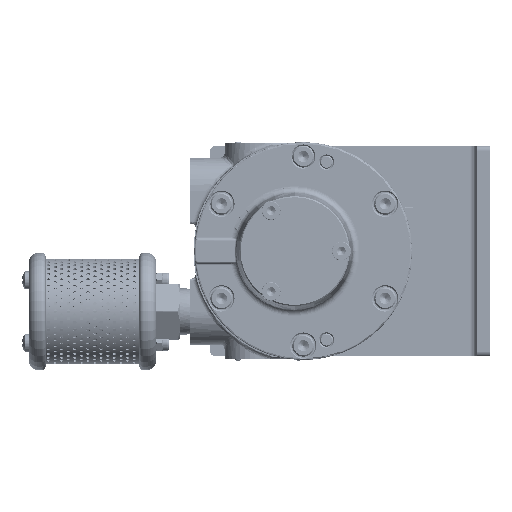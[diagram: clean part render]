
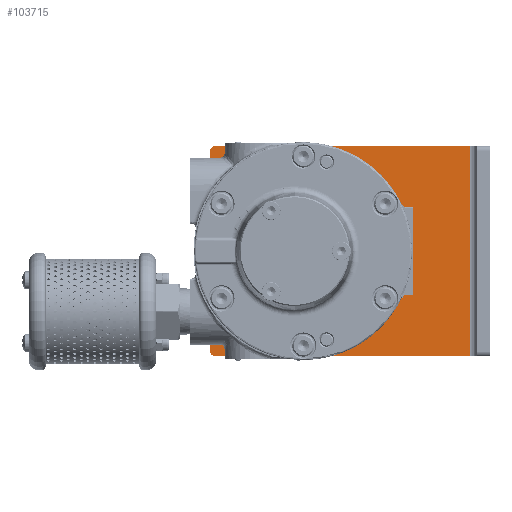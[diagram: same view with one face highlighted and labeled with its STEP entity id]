
A CAD part, left-side view. The second image highlights one B-rep face of the part: STEP entity #103715.
In plain terms, the highlighted planar face has unit normal (-1, 0, 0).
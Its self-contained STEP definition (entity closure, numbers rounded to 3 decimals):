
#1281 = AXIS2_PLACEMENT_3D ( 'NONE', #7901, #239108, #30136 ) ;
#3856 = DIRECTION ( 'NONE',  ( 0., 0., -1. ) ) ;
#3944 = CARTESIAN_POINT ( 'NONE',  ( 38.28, 42.27, 45.75 ) ) ;
#5260 = ORIENTED_EDGE ( 'NONE', *, *, #266473, .T. ) ;
#7466 = VECTOR ( 'NONE', #153856, 1000. ) ;
#7739 = EDGE_LOOP ( 'NONE', ( #287343, #186416 ) ) ;
#7901 = CARTESIAN_POINT ( 'NONE',  ( 38.28, 8.218, 30.668 ) ) ;
#8113 = DIRECTION ( 'NONE',  ( 0., 0., -1. ) ) ;
#9466 = CARTESIAN_POINT ( 'NONE',  ( 38.28, 40.27, -45.75 ) ) ;
#10134 = AXIS2_PLACEMENT_3D ( 'NONE', #223827, #244090, #247059 ) ;
#10282 = EDGE_CURVE ( 'NONE', #14335, #158432, #11310, .T. ) ;
#11310 = CIRCLE ( 'NONE', #258296, 3.55 ) ;
#14335 = VERTEX_POINT ( 'NONE', #232150 ) ;
#16700 = ORIENTED_EDGE ( 'NONE', *, *, #10282, .T. ) ;
#19682 = VERTEX_POINT ( 'NONE', #100225 ) ;
#20776 = VECTOR ( 'NONE', #242179, 1000. ) ;
#21464 = DIRECTION ( 'NONE',  ( 1., 0., 0. ) ) ;
#22335 = CARTESIAN_POINT ( 'NONE',  ( 38.28, -75.93, -47.75 ) ) ;
#26912 = AXIS2_PLACEMENT_3D ( 'NONE', #149859, #150875, #225500 ) ;
#27684 = CARTESIAN_POINT ( 'NONE',  ( 38.28, 8.218, -34.218 ) ) ;
#30136 = DIRECTION ( 'NONE',  ( 0., 0., -1. ) ) ;
#38398 = EDGE_CURVE ( 'NONE', #66563, #239567, #219705, .T. ) ;
#39276 = FACE_OUTER_BOUND ( 'NONE', #197765, .T. ) ;
#41711 = CIRCLE ( 'NONE', #1281, 3.55 ) ;
#43554 = EDGE_CURVE ( 'NONE', #51917, #224086, #182728, .T. ) ;
#46492 = FACE_BOUND ( 'NONE', #262598, .T. ) ;
#47226 = CIRCLE ( 'NONE', #10134, 3.55 ) ;
#51917 = VERTEX_POINT ( 'NONE', #59746 ) ;
#51996 = AXIS2_PLACEMENT_3D ( 'NONE', #190763, #170598, #53420 ) ;
#53420 = DIRECTION ( 'NONE',  ( 0., 0., -1. ) ) ;
#53535 = DIRECTION ( 'NONE',  ( 1., 0., 0. ) ) ;
#57051 = CARTESIAN_POINT ( 'NONE',  ( 38.28, -31.75, 0. ) ) ;
#59746 = CARTESIAN_POINT ( 'NONE',  ( 38.28, 40.27, 47.75 ) ) ;
#59921 = CARTESIAN_POINT ( 'NONE',  ( 38.28, 40.27, 45.75 ) ) ;
#66364 = ORIENTED_EDGE ( 'NONE', *, *, #155151, .T. ) ;
#66563 = VERTEX_POINT ( 'NONE', #74804 ) ;
#70888 = DIRECTION ( 'NONE',  ( 0., 1., 0. ) ) ;
#73221 = CARTESIAN_POINT ( 'NONE',  ( 38.28, 42.27, -45.75 ) ) ;
#74659 = EDGE_CURVE ( 'NONE', #208056, #242850, #122368, .T. ) ;
#74804 = CARTESIAN_POINT ( 'NONE',  ( 38.28, 3.97, -23.25 ) ) ;
#75660 = ORIENTED_EDGE ( 'NONE', *, *, #74659, .T. ) ;
#76721 = EDGE_CURVE ( 'NONE', #274169, #224086, #273894, .T. ) ;
#78716 = AXIS2_PLACEMENT_3D ( 'NONE', #277607, #117845, #3856 ) ;
#80151 = DIRECTION ( 'NONE',  ( 1., 0., 0. ) ) ;
#82110 = LINE ( 'NONE', #241203, #20776 ) ;
#92720 = CIRCLE ( 'NONE', #268662, 2. ) ;
#93116 = CARTESIAN_POINT ( 'NONE',  ( 38.28, 3.97, 0. ) ) ;
#100225 = CARTESIAN_POINT ( 'NONE',  ( 38.28, 8.218, 34.218 ) ) ;
#100856 = CARTESIAN_POINT ( 'NONE',  ( 38.28, 3.97, 23.25 ) ) ;
#100898 = LINE ( 'NONE', #278104, #184033 ) ;
#103715 = ADVANCED_FACE ( 'NONE', ( #46492, #255696, #216295, #223555, #39276 ), #279837, .F. ) ;
#106373 = DIRECTION ( 'NONE',  ( 0., 0., -1. ) ) ;
#117845 = DIRECTION ( 'NONE',  ( 1., 0., 0. ) ) ;
#118264 = EDGE_CURVE ( 'NONE', #203811, #51917, #100898, .T. ) ;
#121039 = CARTESIAN_POINT ( 'NONE',  ( 38.28, -31.75, -3.55 ) ) ;
#122368 = CIRCLE ( 'NONE', #78716, 3.55 ) ;
#131459 = EDGE_LOOP ( 'NONE', ( #75660, #5260 ) ) ;
#147472 = CARTESIAN_POINT ( 'NONE',  ( 38.28, -84.93, -47.75 ) ) ;
#149859 = CARTESIAN_POINT ( 'NONE',  ( 38.28, 8.218, 30.668 ) ) ;
#150875 = DIRECTION ( 'NONE',  ( 1., 0., 0. ) ) ;
#151809 = EDGE_CURVE ( 'NONE', #274169, #160171, #92720, .T. ) ;
#153856 = DIRECTION ( 'NONE',  ( 0., 0., 1. ) ) ;
#155151 = EDGE_CURVE ( 'NONE', #255444, #203811, #285645, .T. ) ;
#158371 = ORIENTED_EDGE ( 'NONE', *, *, #222589, .T. ) ;
#158432 = VERTEX_POINT ( 'NONE', #121039 ) ;
#160171 = VERTEX_POINT ( 'NONE', #262091 ) ;
#162229 = EDGE_CURVE ( 'NONE', #255444, #160171, #82110, .T. ) ;
#170598 = DIRECTION ( 'NONE',  ( 1., 0., 0. ) ) ;
#171066 = DIRECTION ( 'NONE',  ( 0., 0., -1. ) ) ;
#171688 = DIRECTION ( 'NONE',  ( 0., 0., 1. ) ) ;
#175903 = AXIS2_PLACEMENT_3D ( 'NONE', #59921, #177110, #106373 ) ;
#176543 = DIRECTION ( 'NONE',  ( 0., 0., -1. ) ) ;
#177110 = DIRECTION ( 'NONE',  ( -1., 0., 0. ) ) ;
#182728 = CIRCLE ( 'NONE', #175903, 2. ) ;
#183618 = CARTESIAN_POINT ( 'NONE',  ( 38.28, 8.218, -27.118 ) ) ;
#184033 = VECTOR ( 'NONE', #70888, 1000. ) ;
#186416 = ORIENTED_EDGE ( 'NONE', *, *, #291082, .T. ) ;
#190763 = CARTESIAN_POINT ( 'NONE',  ( 38.28, 8.218, -30.668 ) ) ;
#194858 = CARTESIAN_POINT ( 'NONE',  ( 38.28, 42.27, -47.75 ) ) ;
#194902 = ORIENTED_EDGE ( 'NONE', *, *, #43554, .T. ) ;
#197765 = EDGE_LOOP ( 'NONE', ( #269498, #194902, #264362, #288205, #292848, #66364 ) ) ;
#199340 = CARTESIAN_POINT ( 'NONE',  ( 38.28, -75.93, 47.75 ) ) ;
#200213 = CARTESIAN_POINT ( 'NONE',  ( 38.28, -75.93, -47.75 ) ) ;
#203811 = VERTEX_POINT ( 'NONE', #199340 ) ;
#207663 = ORIENTED_EDGE ( 'NONE', *, *, #226939, .T. ) ;
#208056 = VERTEX_POINT ( 'NONE', #27684 ) ;
#212343 = VECTOR ( 'NONE', #171688, 1000. ) ;
#214422 = DIRECTION ( 'NONE',  ( -1., 0., 0. ) ) ;
#216295 = FACE_BOUND ( 'NONE', #268619, .T. ) ;
#219705 = CIRCLE ( 'NONE', #255387, 23.25 ) ;
#221917 = CARTESIAN_POINT ( 'NONE',  ( 38.28, 3.97, 0. ) ) ;
#222589 = EDGE_CURVE ( 'NONE', #158432, #14335, #47226, .T. ) ;
#222775 = CIRCLE ( 'NONE', #262372, 23.25 ) ;
#223555 = FACE_BOUND ( 'NONE', #131459, .T. ) ;
#223827 = CARTESIAN_POINT ( 'NONE',  ( 38.28, -31.75, 0. ) ) ;
#224086 = VERTEX_POINT ( 'NONE', #3944 ) ;
#225500 = DIRECTION ( 'NONE',  ( 0., 0., -1. ) ) ;
#226939 = EDGE_CURVE ( 'NONE', #19682, #230060, #243552, .T. ) ;
#229411 = DIRECTION ( 'NONE',  ( 0., 0., -1. ) ) ;
#230060 = VERTEX_POINT ( 'NONE', #268188 ) ;
#232150 = CARTESIAN_POINT ( 'NONE',  ( 38.28, -31.75, 3.55 ) ) ;
#235628 = CIRCLE ( 'NONE', #51996, 3.55 ) ;
#239108 = DIRECTION ( 'NONE',  ( 1., 0., 0. ) ) ;
#239567 = VERTEX_POINT ( 'NONE', #100856 ) ;
#241203 = CARTESIAN_POINT ( 'NONE',  ( 38.28, -84.93, -47.75 ) ) ;
#241821 = DIRECTION ( 'NONE',  ( 0., 0., -1. ) ) ;
#242179 = DIRECTION ( 'NONE',  ( 0., 1., 0. ) ) ;
#242850 = VERTEX_POINT ( 'NONE', #183618 ) ;
#243552 = CIRCLE ( 'NONE', #26912, 3.55 ) ;
#244090 = DIRECTION ( 'NONE',  ( 1., 0., 0. ) ) ;
#246143 = DIRECTION ( 'NONE',  ( 1., 0., 0. ) ) ;
#247059 = DIRECTION ( 'NONE',  ( 0., 0., -1. ) ) ;
#255387 = AXIS2_PLACEMENT_3D ( 'NONE', #93116, #21464, #229411 ) ;
#255444 = VERTEX_POINT ( 'NONE', #22335 ) ;
#255696 = FACE_BOUND ( 'NONE', #7739, .T. ) ;
#258296 = AXIS2_PLACEMENT_3D ( 'NONE', #57051, #80151, #241821 ) ;
#262091 = CARTESIAN_POINT ( 'NONE',  ( 38.28, 40.27, -47.75 ) ) ;
#262372 = AXIS2_PLACEMENT_3D ( 'NONE', #221917, #246143, #176543 ) ;
#262598 = EDGE_LOOP ( 'NONE', ( #289989, #207663 ) ) ;
#264362 = ORIENTED_EDGE ( 'NONE', *, *, #76721, .F. ) ;
#266473 = EDGE_CURVE ( 'NONE', #242850, #208056, #235628, .T. ) ;
#268188 = CARTESIAN_POINT ( 'NONE',  ( 38.28, 8.218, 27.118 ) ) ;
#268619 = EDGE_LOOP ( 'NONE', ( #158371, #16700 ) ) ;
#268662 = AXIS2_PLACEMENT_3D ( 'NONE', #9466, #214422, #171066 ) ;
#269498 = ORIENTED_EDGE ( 'NONE', *, *, #118264, .T. ) ;
#273894 = LINE ( 'NONE', #194858, #212343 ) ;
#274169 = VERTEX_POINT ( 'NONE', #73221 ) ;
#275399 = AXIS2_PLACEMENT_3D ( 'NONE', #147472, #53535, #8113 ) ;
#277607 = CARTESIAN_POINT ( 'NONE',  ( 38.28, 8.218, -30.668 ) ) ;
#278104 = CARTESIAN_POINT ( 'NONE',  ( 38.28, -84.93, 47.75 ) ) ;
#279837 = PLANE ( 'NONE',  #275399 ) ;
#285645 = LINE ( 'NONE', #200213, #7466 ) ;
#287343 = ORIENTED_EDGE ( 'NONE', *, *, #38398, .T. ) ;
#288205 = ORIENTED_EDGE ( 'NONE', *, *, #151809, .T. ) ;
#289989 = ORIENTED_EDGE ( 'NONE', *, *, #292377, .T. ) ;
#291082 = EDGE_CURVE ( 'NONE', #239567, #66563, #222775, .T. ) ;
#292377 = EDGE_CURVE ( 'NONE', #230060, #19682, #41711, .T. ) ;
#292848 = ORIENTED_EDGE ( 'NONE', *, *, #162229, .F. ) ;
